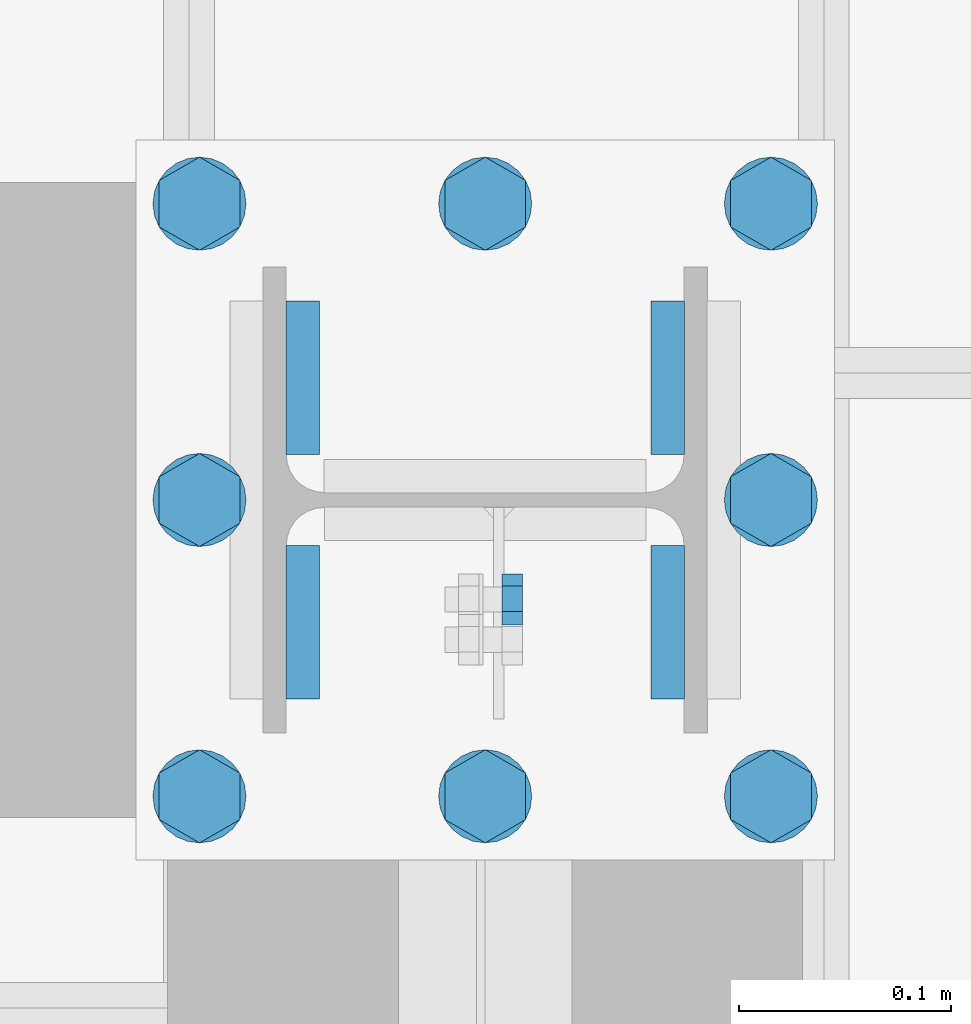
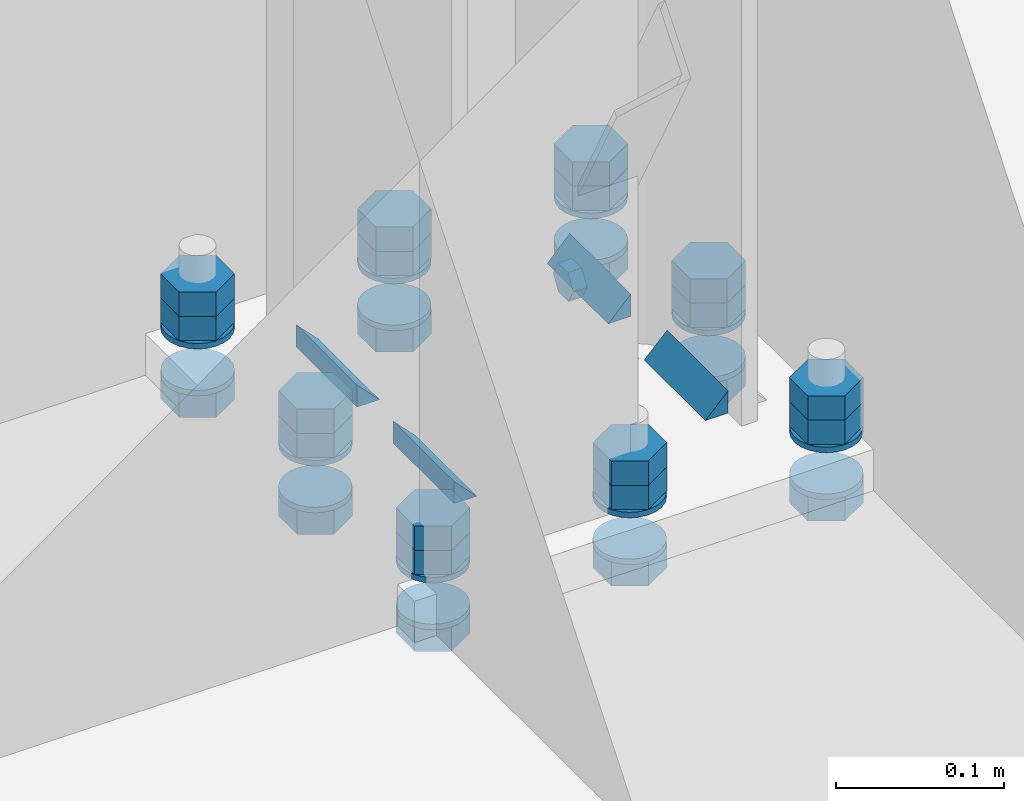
# One storey, part 27 of 29: 41 mechanical fasteners, 8 fasteners.
"""IFC4 building model written with IfcOpenShell, lengths in metres."""

from ifc_helpers import new_model, si_unit, frame, origin_with_axes, place, context, project, spatial, polyline, outline, extrude, type_object, element, save


model = new_model("IFC4")

# Units and contexts
model_context = context("Model", 3, precision=1e-05, world=origin_with_axes())
ifc_project = project(units=[si_unit("LENGTHUNIT", "METRE"), si_unit("AREAUNIT", "SQUARE_METRE"), si_unit("VOLUMEUNIT", "CUBIC_METRE"), si_unit("MASSUNIT", "GRAM", prefix="KILO"), si_unit("TIMEUNIT", "SECOND"), si_unit("PLANEANGLEUNIT", "RADIAN"), si_unit("SOLIDANGLEUNIT", "STERADIAN"), si_unit("THERMODYNAMICTEMPERATUREUNIT", "DEGREE_CELSIUS")], contexts=[model_context])

# Site, building, storey
placement_1 = place(None, origin_with_axes())
site = spatial("IfcSite", under=ifc_project, at=placement_1, Name="Italia", CompositionType="ELEMENT")
building = spatial("IfcBuilding", under=site, at=placement_1, Name="Capannone", CompositionType="ELEMENT")
storey = spatial("IfcBuildingStorey", under=building, at=placement_1, Name="Storey 0", CompositionType="ELEMENT", Elevation=0.0)

# Fasteners
fastener_type_1 = type_object("IfcFastenerType", Name="Collegamenti 0001_0101 0002_0102 0003_0103 0004_0104 0005_0105 0006_0106 0007_0107 0008_0108 0009_0109 0010_0110 0011_0111 0012_0112", PredefinedType="WELD")
placement_2 = place(placement_1, origin_with_axes())
fastener_1_placement = place(placement_2, origin_with_axes())
element("IfcFastener", 1, at=fastener_1_placement, inside=storey, type_object=fastener_type_1, Name="Collegamenti 0001_0101 0002_0102 0003_0103 0004_0104 0005_0105 0006_0106 0007_0107 0008_0108 0009_0109 0010_0110 0011_0111 0012_0112", context=model_context, shape_type="SweptSolid", body=[
    extrude(outline(polyline([(0.0, 0.0), (0.0156889, 0.0161734), (0.0156889, 0.0), (0.0, 0.0)])), frame((13.9216, 15.0215, 0.02995), z_axis=(0.0, 1.0, 0.0), x_axis=(-1.0, 0.0, 0.0)), (0.0, 0.0, 1.0), 0.0726004),
])
fastener_type_2 = type_object("IfcFastenerType", Name="Collegamenti 0001_0101 0002_0102 0003_0103 0004_0104 0005_0105 0006_0106 0007_0107 0008_0108 0009_0109 0010_0110 0011_0111 0012_0112", PredefinedType="WELD")
fastener_2_placement = place(placement_2, origin_with_axes())
element("IfcFastener", 2, at=fastener_2_placement, inside=storey, type_object=fastener_type_2, Name="Collegamenti 0001_0101 0002_0102 0003_0103 0004_0104 0005_0105 0006_0106 0007_0107 0008_0108 0009_0109 0010_0110 0011_0111 0012_0112", context=model_context, shape_type="SweptSolid", body=[
    extrude(outline(polyline([(0.0, 0.0), (0.0156889, 0.0161734), (0.0156889, 0.0), (0.0, 0.0)])), frame((14.0784, 15.0941, 0.02995), z_axis=(0.0, -1.0, 0.0), x_axis=(1.0, 0.0, 0.0)), (0.0, 0.0, 1.0), 0.0726004),
])
fastener_type_3 = type_object("IfcFastenerType", Name="Collegamenti 0001_0101 0002_0102 0003_0103 0004_0104 0005_0105 0006_0106 0007_0107 0008_0108 0009_0109 0010_0110 0011_0111 0012_0112", PredefinedType="WELD")
fastener_3_placement = place(placement_2, origin_with_axes())
element("IfcFastener", 3, at=fastener_3_placement, inside=storey, type_object=fastener_type_3, Name="Collegamenti 0001_0101 0002_0102 0003_0103 0004_0104 0005_0105 0006_0106 0007_0107 0008_0108 0009_0109 0010_0110 0011_0111 0012_0112", context=model_context, shape_type="SweptSolid", body=[
    extrude(outline(polyline([(0.0, 0.0), (0.0156889, 0.0161734), (0.0156889, 0.0), (0.0, 0.0)])), frame((14.0784, 14.9785, 0.02995), z_axis=(0.0, -1.0, 0.0), x_axis=(1.0, 0.0, 0.0)), (0.0, 0.0, 1.0), 0.0726004),
])
fastener_type_4 = type_object("IfcFastenerType", Name="Collegamenti 0001_0101 0002_0102 0003_0103 0004_0104 0005_0105 0006_0106 0007_0107 0008_0108 0009_0109 0010_0110 0011_0111 0012_0112", PredefinedType="WELD")
fastener_4_placement = place(placement_2, origin_with_axes())
element("IfcFastener", 4, at=fastener_4_placement, inside=storey, type_object=fastener_type_4, Name="Collegamenti 0001_0101 0002_0102 0003_0103 0004_0104 0005_0105 0006_0106 0007_0107 0008_0108 0009_0109 0010_0110 0011_0111 0012_0112", context=model_context, shape_type="SweptSolid", body=[
    extrude(outline(polyline([(0.0, 0.0), (0.0156889, 0.0161734), (0.0156889, 0.0), (0.0, 0.0)])), frame((13.9216, 14.9059, 0.02995), z_axis=(0.0, 1.0, 0.0), x_axis=(-1.0, 0.0, 0.0)), (0.0, 0.0, 1.0), 0.0726004),
])
fastener_type_5 = type_object("IfcFastenerType", Name="Collegamenti 0001_0101 0002_0102 0003_0103 0004_0104 0005_0105 0006_0106 0007_0107 0008_0108 0009_0109 0010_0110 0011_0111 0012_0112", PredefinedType="WELD")
fastener_5_placement = place(placement_2, origin_with_axes())
element("IfcFastener", 5, at=fastener_5_placement, inside=storey, type_object=fastener_type_5, Name="Collegamenti 0001_0101 0002_0102 0003_0103 0004_0104 0005_0105 0006_0106 0007_0107 0008_0108 0009_0109 0010_0110 0011_0111 0012_0112", context=model_context, shape_type="SweptSolid", body=[
    extrude(outline(polyline([(0.0, 0.0), (0.0156889, 0.0161734), (0.0156889, 0.0), (0.0, 0.0)])), frame((13.9216, 15.0215, 0.02995), z_axis=(0.0, 1.0, 0.0), x_axis=(-1.0, 0.0, 0.0)), (0.0, 0.0, 1.0), 0.0726004),
])
fastener_type_6 = type_object("IfcFastenerType", Name="Collegamenti 0001_0101 0002_0102 0003_0103 0004_0104 0005_0105 0006_0106 0007_0107 0008_0108 0009_0109 0010_0110 0011_0111 0012_0112", PredefinedType="WELD")
fastener_6_placement = place(placement_2, origin_with_axes())
element("IfcFastener", 6, at=fastener_6_placement, inside=storey, type_object=fastener_type_6, Name="Collegamenti 0001_0101 0002_0102 0003_0103 0004_0104 0005_0105 0006_0106 0007_0107 0008_0108 0009_0109 0010_0110 0011_0111 0012_0112", context=model_context, shape_type="SweptSolid", body=[
    extrude(outline(polyline([(0.0, 0.0), (0.0156889, 0.0161734), (0.0156889, 0.0), (0.0, 0.0)])), frame((14.0784, 15.0941, 0.02995), z_axis=(0.0, -1.0, 0.0), x_axis=(1.0, 0.0, 0.0)), (0.0, 0.0, 1.0), 0.0726004),
])
fastener_type_7 = type_object("IfcFastenerType", Name="Collegamenti 0001_0101 0002_0102 0003_0103 0004_0104 0005_0105 0006_0106 0007_0107 0008_0108 0009_0109 0010_0110 0011_0111 0012_0112", PredefinedType="WELD")
fastener_7_placement = place(placement_2, origin_with_axes())
element("IfcFastener", 7, at=fastener_7_placement, inside=storey, type_object=fastener_type_7, Name="Collegamenti 0001_0101 0002_0102 0003_0103 0004_0104 0005_0105 0006_0106 0007_0107 0008_0108 0009_0109 0010_0110 0011_0111 0012_0112", context=model_context, shape_type="SweptSolid", body=[
    extrude(outline(polyline([(0.0, 0.0), (0.0156889, 0.0161734), (0.0156889, 0.0), (0.0, 0.0)])), frame((14.0784, 14.9785, 0.02995), z_axis=(0.0, -1.0, 0.0), x_axis=(1.0, 0.0, 0.0)), (0.0, 0.0, 1.0), 0.0726004),
])
fastener_type_8 = type_object("IfcFastenerType", Name="Collegamenti 0001_0101 0002_0102 0003_0103 0004_0104 0005_0105 0006_0106 0007_0107 0008_0108 0009_0109 0010_0110 0011_0111 0012_0112", PredefinedType="WELD")
fastener_8_placement = place(placement_2, origin_with_axes())
element("IfcFastener", 8, at=fastener_8_placement, inside=storey, type_object=fastener_type_8, Name="Collegamenti 0001_0101 0002_0102 0003_0103 0004_0104 0005_0105 0006_0106 0007_0107 0008_0108 0009_0109 0010_0110 0011_0111 0012_0112", context=model_context, shape_type="SweptSolid", body=[
    extrude(outline(polyline([(0.0, 0.0), (0.0156889, 0.0161734), (0.0156889, 0.0), (0.0, 0.0)])), frame((13.9216, 14.9059, 0.02995), z_axis=(0.0, 1.0, 0.0), x_axis=(-1.0, 0.0, 0.0)), (0.0, 0.0, 1.0), 0.0726004),
])

# Mechanical fasteners
mechanical_fastener_type_1 = type_object("IfcMechanicalFastenerType", Name="Collegamenti 0001_0101 0002_0102 0003_0103 0004_0104 0005_0105 0006_0106 0007_0107 0008_0108 0009_0109 0010_0110 0011_0111 0012_0112", PredefinedType="BOLT")
mechanical_fastener_1_placement = place(placement_2, origin_with_axes())
element("IfcMechanicalFastener", 9, at=mechanical_fastener_1_placement, inside=storey, type_object=mechanical_fastener_type_1, Name="Collegamenti 0001_0101 0002_0102 0003_0103 0004_0104 0005_0105 0006_0106 0007_0107 0008_0108 0009_0109 0010_0110 0011_0111 0012_0112", NominalDiameter=0.0219998, context=model_context, shape_type="SweptSolid", body=[
    extrude(outline(polyline([(0.0, 0.0), (-0.0220003, 0.0), (-0.033, 0.0190525), (-0.0220003, 0.038105), (0.0, 0.038105), (0.0109997, 0.0190525), (0.0, 0.0)])), frame((14.1541, 14.871, 0.034), z_axis=(0.0, 0.0, 1.0), x_axis=(0.0, 1.0, 0.0)), (0.0, 0.0, 1.0), 0.0176),
])
mechanical_fastener_type_2 = type_object("IfcMechanicalFastenerType", Name="Collegamenti 0001_0101 0002_0102 0003_0103 0004_0104 0005_0105 0006_0106 0007_0107 0008_0108 0009_0109 0010_0110 0011_0111 0012_0112", PredefinedType="BOLT")
mechanical_fastener_2_placement = place(placement_2, origin_with_axes())
element("IfcMechanicalFastener", 10, at=mechanical_fastener_2_placement, inside=storey, type_object=mechanical_fastener_type_2, Name="Collegamenti 0001_0101 0002_0102 0003_0103 0004_0104 0005_0105 0006_0106 0007_0107 0008_0108 0009_0109 0010_0110 0011_0111 0012_0112", NominalDiameter=0.0219998, context=model_context, shape_type="SweptSolid", body=[
    extrude(outline(polyline([(0.0, 0.0), (-0.0220003, 0.0), (-0.033, 0.0190525), (-0.0220003, 0.038105), (0.0, 0.038105), (0.0109997, 0.0190525), (0.0, 0.0)])), frame((14.1541, 14.871, 0.0516), z_axis=(0.0, 0.0, 1.0), x_axis=(0.0, 1.0, 0.0)), (0.0, 0.0, 1.0), 0.0176),
])
mechanical_fastener_type_3 = type_object("IfcMechanicalFastenerType", Name="Collegamenti 0001_0101 0002_0102 0003_0103 0004_0104 0005_0105 0006_0106 0007_0107 0008_0108 0009_0109 0010_0110 0011_0111 0012_0112", PredefinedType="BOLT")
mechanical_fastener_3_placement = place(placement_2, origin_with_axes())
element("IfcMechanicalFastener", 11, at=mechanical_fastener_3_placement, inside=storey, type_object=mechanical_fastener_type_3, Name="Collegamenti 0001_0101 0002_0102 0003_0103 0004_0104 0005_0105 0006_0106 0007_0107 0008_0108 0009_0109 0010_0110 0011_0111 0012_0112", NominalDiameter=0.0219998, context=model_context, shape_type="SweptSolid", body=[
    extrude(outline(polyline([(0.0, 0.0), (-0.0220003, 0.0), (-0.033, 0.0190525), (-0.0220003, 0.038105), (0.0, 0.038105), (0.0109997, 0.0190525), (0.0, 0.0)])), frame((14.1541, 14.871, -0.0216), z_axis=(0.0, 0.0, 1.0), x_axis=(0.0, 1.0, 0.0)), (0.0, 0.0, 1.0), 0.0176),
])
mechanical_fastener_type_4 = type_object("IfcMechanicalFastenerType", Name="Collegamenti 0001_0101 0002_0102 0003_0103 0004_0104 0005_0105 0006_0106 0007_0107 0008_0108 0009_0109 0010_0110 0011_0111 0012_0112", PredefinedType="BOLT")
mechanical_fastener_4_placement = place(placement_2, origin_with_axes())
element("IfcMechanicalFastener", 12, at=mechanical_fastener_4_placement, inside=storey, type_object=mechanical_fastener_type_4, Name="Collegamenti 0001_0101 0002_0102 0003_0103 0004_0104 0005_0105 0006_0106 0007_0107 0008_0108 0009_0109 0010_0110 0011_0111 0012_0112", NominalDiameter=0.044, context=model_context, shape_type="SweptSolid", body=[
    extrude(outline(polyline([(0.0, 0.0), (-0.000749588, -0.00569439), (-0.00294781, -0.0109997), (-0.00644398, -0.0155563), (-0.0110006, -0.0190525), (-0.0163059, -0.0212507), (-0.0220003, -0.0220003), (-0.0276947, -0.0212507), (-0.033, -0.0190525), (-0.0375566, -0.0155563), (-0.0410528, -0.0109997), (-0.043251, -0.00569439), (-0.0440006, 0.0), (-0.043251, 0.00569439), (-0.0410528, 0.0109997), (-0.0375566, 0.0155563), (-0.033, 0.0190525), (-0.0276947, 0.0212507), (-0.0220003, 0.0220003), (-0.0163059, 0.0212507), (-0.0110006, 0.0190525), (-0.00644398, 0.0155563), (-0.00294781, 0.0109997), (-0.000749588, 0.00569439), (0.0, 0.0)])), frame((14.135, 14.882, 0.03), z_axis=(0.0, 0.0, 1.0), x_axis=(0.0, 1.0, 0.0)), (0.0, 0.0, 1.0), 0.004),
])
mechanical_fastener_type_5 = type_object("IfcMechanicalFastenerType", Name="Collegamenti 0001_0101 0002_0102 0003_0103 0004_0104 0005_0105 0006_0106 0007_0107 0008_0108 0009_0109 0010_0110 0011_0111 0012_0112", PredefinedType="BOLT")
mechanical_fastener_5_placement = place(placement_2, origin_with_axes())
element("IfcMechanicalFastener", 13, at=mechanical_fastener_5_placement, inside=storey, type_object=mechanical_fastener_type_5, Name="Collegamenti 0001_0101 0002_0102 0003_0103 0004_0104 0005_0105 0006_0106 0007_0107 0008_0108 0009_0109 0010_0110 0011_0111 0012_0112", NominalDiameter=0.044, context=model_context, shape_type="SweptSolid", body=[
    extrude(outline(polyline([(0.0, 0.0), (-0.000749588, -0.00569439), (-0.00294781, -0.0109997), (-0.00644398, -0.0155563), (-0.0110006, -0.0190525), (-0.0163059, -0.0212507), (-0.0220003, -0.0220003), (-0.0276947, -0.0212507), (-0.033, -0.0190525), (-0.0375566, -0.0155563), (-0.0410528, -0.0109997), (-0.043251, -0.00569439), (-0.0440006, 0.0), (-0.043251, 0.00569439), (-0.0410528, 0.0109997), (-0.0375566, 0.0155563), (-0.033, 0.0190525), (-0.0276947, 0.0212507), (-0.0220003, 0.0220003), (-0.0163059, 0.0212507), (-0.0110006, 0.0190525), (-0.00644398, 0.0155563), (-0.00294781, 0.0109997), (-0.000749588, 0.00569439), (0.0, 0.0)])), frame((14.135, 14.882, -0.004), z_axis=(0.0, 0.0, 1.0), x_axis=(0.0, 1.0, 0.0)), (0.0, 0.0, 1.0), 0.004),
])
mechanical_fastener_type_6 = type_object("IfcMechanicalFastenerType", Name="Collegamenti 0001_0101 0002_0102 0003_0103 0004_0104 0005_0105 0006_0106 0007_0107 0008_0108 0009_0109 0010_0110 0011_0111 0012_0112", PredefinedType="BOLT")
mechanical_fastener_6_placement = place(placement_2, origin_with_axes())
element("IfcMechanicalFastener", 14, at=mechanical_fastener_6_placement, inside=storey, type_object=mechanical_fastener_type_6, Name="Collegamenti 0001_0101 0002_0102 0003_0103 0004_0104 0005_0105 0006_0106 0007_0107 0008_0108 0009_0109 0010_0110 0011_0111 0012_0112", NominalDiameter=0.0219994, context=model_context, shape_type="SweptSolid", body=[
    extrude(outline(polyline([(0.0, 0.0), (-0.0219994, 0.0), (-0.033, 0.0190525), (-0.0219994, 0.038105), (0.0, 0.038105), (0.0110006, 0.0190525), (0.0, 0.0)])), frame((14.1541, 15.011, 0.034), z_axis=(0.0, 0.0, 1.0), x_axis=(0.0, 1.0, 0.0)), (0.0, 0.0, 1.0), 0.0176),
])
mechanical_fastener_type_7 = type_object("IfcMechanicalFastenerType", Name="Collegamenti 0001_0101 0002_0102 0003_0103 0004_0104 0005_0105 0006_0106 0007_0107 0008_0108 0009_0109 0010_0110 0011_0111 0012_0112", PredefinedType="BOLT")
mechanical_fastener_7_placement = place(placement_2, origin_with_axes())
element("IfcMechanicalFastener", 15, at=mechanical_fastener_7_placement, inside=storey, type_object=mechanical_fastener_type_7, Name="Collegamenti 0001_0101 0002_0102 0003_0103 0004_0104 0005_0105 0006_0106 0007_0107 0008_0108 0009_0109 0010_0110 0011_0111 0012_0112", NominalDiameter=0.0219994, context=model_context, shape_type="SweptSolid", body=[
    extrude(outline(polyline([(0.0, 0.0), (-0.0219994, 0.0), (-0.033, 0.0190525), (-0.0219994, 0.038105), (0.0, 0.038105), (0.0110006, 0.0190525), (0.0, 0.0)])), frame((14.1541, 15.011, 0.0516), z_axis=(0.0, 0.0, 1.0), x_axis=(0.0, 1.0, 0.0)), (0.0, 0.0, 1.0), 0.0176),
])
mechanical_fastener_type_8 = type_object("IfcMechanicalFastenerType", Name="Collegamenti 0001_0101 0002_0102 0003_0103 0004_0104 0005_0105 0006_0106 0007_0107 0008_0108 0009_0109 0010_0110 0011_0111 0012_0112", PredefinedType="BOLT")
mechanical_fastener_8_placement = place(placement_2, origin_with_axes())
element("IfcMechanicalFastener", 16, at=mechanical_fastener_8_placement, inside=storey, type_object=mechanical_fastener_type_8, Name="Collegamenti 0001_0101 0002_0102 0003_0103 0004_0104 0005_0105 0006_0106 0007_0107 0008_0108 0009_0109 0010_0110 0011_0111 0012_0112", NominalDiameter=0.0219994, context=model_context, shape_type="SweptSolid", body=[
    extrude(outline(polyline([(0.0, 0.0), (-0.0219994, 0.0), (-0.033, 0.0190525), (-0.0219994, 0.038105), (0.0, 0.038105), (0.0110006, 0.0190525), (0.0, 0.0)])), frame((14.1541, 15.011, -0.0216), z_axis=(0.0, 0.0, 1.0), x_axis=(0.0, 1.0, 0.0)), (0.0, 0.0, 1.0), 0.0176),
])
mechanical_fastener_type_9 = type_object("IfcMechanicalFastenerType", Name="Collegamenti 0001_0101 0002_0102 0003_0103 0004_0104 0005_0105 0006_0106 0007_0107 0008_0108 0009_0109 0010_0110 0011_0111 0012_0112", PredefinedType="BOLT")
mechanical_fastener_9_placement = place(placement_2, origin_with_axes())
element("IfcMechanicalFastener", 17, at=mechanical_fastener_9_placement, inside=storey, type_object=mechanical_fastener_type_9, Name="Collegamenti 0001_0101 0002_0102 0003_0103 0004_0104 0005_0105 0006_0106 0007_0107 0008_0108 0009_0109 0010_0110 0011_0111 0012_0112", NominalDiameter=0.044, context=model_context, shape_type="SweptSolid", body=[
    extrude(outline(polyline([(0.0, 0.0), (-0.000749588, -0.00569439), (-0.00294781, -0.0109997), (-0.00644398, -0.0155563), (-0.0110006, -0.0190525), (-0.0163059, -0.0212507), (-0.0220003, -0.0220003), (-0.0276947, -0.0212507), (-0.033, -0.0190525), (-0.0375566, -0.0155563), (-0.0410528, -0.0109997), (-0.043251, -0.00569439), (-0.0440006, 0.0), (-0.043251, 0.00569439), (-0.0410528, 0.0109997), (-0.0375566, 0.0155563), (-0.033, 0.0190525), (-0.0276947, 0.0212507), (-0.0220003, 0.0220003), (-0.0163059, 0.0212507), (-0.0110006, 0.0190525), (-0.00644398, 0.0155563), (-0.00294781, 0.0109997), (-0.000749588, 0.00569439), (0.0, 0.0)])), frame((14.135, 15.022, 0.03), z_axis=(0.0, 0.0, 1.0), x_axis=(0.0, 1.0, 0.0)), (0.0, 0.0, 1.0), 0.004),
])
mechanical_fastener_type_10 = type_object("IfcMechanicalFastenerType", Name="Collegamenti 0001_0101 0002_0102 0003_0103 0004_0104 0005_0105 0006_0106 0007_0107 0008_0108 0009_0109 0010_0110 0011_0111 0012_0112", PredefinedType="BOLT")
mechanical_fastener_10_placement = place(placement_2, origin_with_axes())
element("IfcMechanicalFastener", 18, at=mechanical_fastener_10_placement, inside=storey, type_object=mechanical_fastener_type_10, Name="Collegamenti 0001_0101 0002_0102 0003_0103 0004_0104 0005_0105 0006_0106 0007_0107 0008_0108 0009_0109 0010_0110 0011_0111 0012_0112", NominalDiameter=0.044, context=model_context, shape_type="SweptSolid", body=[
    extrude(outline(polyline([(0.0, 0.0), (-0.000749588, -0.00569439), (-0.00294781, -0.0109997), (-0.00644398, -0.0155563), (-0.0110006, -0.0190525), (-0.0163059, -0.0212507), (-0.0220003, -0.0220003), (-0.0276947, -0.0212507), (-0.033, -0.0190525), (-0.0375566, -0.0155563), (-0.0410528, -0.0109997), (-0.043251, -0.00569439), (-0.0440006, 0.0), (-0.043251, 0.00569439), (-0.0410528, 0.0109997), (-0.0375566, 0.0155563), (-0.033, 0.0190525), (-0.0276947, 0.0212507), (-0.0220003, 0.0220003), (-0.0163059, 0.0212507), (-0.0110006, 0.0190525), (-0.00644398, 0.0155563), (-0.00294781, 0.0109997), (-0.000749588, 0.00569439), (0.0, 0.0)])), frame((14.135, 15.022, -0.004), z_axis=(0.0, 0.0, 1.0), x_axis=(0.0, 1.0, 0.0)), (0.0, 0.0, 1.0), 0.004),
])
mechanical_fastener_type_11 = type_object("IfcMechanicalFastenerType", Name="Collegamenti 0001_0101 0002_0102 0003_0103 0004_0104 0005_0105 0006_0106 0007_0107 0008_0108 0009_0109 0010_0110 0011_0111 0012_0112", PredefinedType="BOLT")
mechanical_fastener_11_placement = place(placement_2, origin_with_axes())
element("IfcMechanicalFastener", 19, at=mechanical_fastener_11_placement, inside=storey, type_object=mechanical_fastener_type_11, Name="Collegamenti 0001_0101 0002_0102 0003_0103 0004_0104 0005_0105 0006_0106 0007_0107 0008_0108 0009_0109 0010_0110 0011_0111 0012_0112", NominalDiameter=0.0219998, context=model_context, shape_type="SweptSolid", body=[
    extrude(outline(polyline([(0.0, 0.0), (-0.0220003, 0.0), (-0.033, 0.0190525), (-0.0220003, 0.038105), (0.0, 0.038105), (0.0109997, 0.0190525), (0.0, 0.0)])), frame((14.1541, 15.151, 0.034), z_axis=(0.0, 0.0, 1.0), x_axis=(0.0, 1.0, 0.0)), (0.0, 0.0, 1.0), 0.0176),
])
mechanical_fastener_type_12 = type_object("IfcMechanicalFastenerType", Name="Collegamenti 0001_0101 0002_0102 0003_0103 0004_0104 0005_0105 0006_0106 0007_0107 0008_0108 0009_0109 0010_0110 0011_0111 0012_0112", PredefinedType="BOLT")
mechanical_fastener_12_placement = place(placement_2, origin_with_axes())
element("IfcMechanicalFastener", 20, at=mechanical_fastener_12_placement, inside=storey, type_object=mechanical_fastener_type_12, Name="Collegamenti 0001_0101 0002_0102 0003_0103 0004_0104 0005_0105 0006_0106 0007_0107 0008_0108 0009_0109 0010_0110 0011_0111 0012_0112", NominalDiameter=0.0219998, context=model_context, shape_type="SweptSolid", body=[
    extrude(outline(polyline([(0.0, 0.0), (-0.0220003, 0.0), (-0.033, 0.0190525), (-0.0220003, 0.038105), (0.0, 0.038105), (0.0109997, 0.0190525), (0.0, 0.0)])), frame((14.1541, 15.151, 0.0516), z_axis=(0.0, 0.0, 1.0), x_axis=(0.0, 1.0, 0.0)), (0.0, 0.0, 1.0), 0.0176),
])
mechanical_fastener_type_13 = type_object("IfcMechanicalFastenerType", Name="Collegamenti 0001_0101 0002_0102 0003_0103 0004_0104 0005_0105 0006_0106 0007_0107 0008_0108 0009_0109 0010_0110 0011_0111 0012_0112", PredefinedType="BOLT")
mechanical_fastener_13_placement = place(placement_2, origin_with_axes())
element("IfcMechanicalFastener", 21, at=mechanical_fastener_13_placement, inside=storey, type_object=mechanical_fastener_type_13, Name="Collegamenti 0001_0101 0002_0102 0003_0103 0004_0104 0005_0105 0006_0106 0007_0107 0008_0108 0009_0109 0010_0110 0011_0111 0012_0112", NominalDiameter=0.0219998, context=model_context, shape_type="SweptSolid", body=[
    extrude(outline(polyline([(0.0, 0.0), (-0.0220003, 0.0), (-0.033, 0.0190525), (-0.0220003, 0.038105), (0.0, 0.038105), (0.0109997, 0.0190525), (0.0, 0.0)])), frame((14.1541, 15.151, -0.0216), z_axis=(0.0, 0.0, 1.0), x_axis=(0.0, 1.0, 0.0)), (0.0, 0.0, 1.0), 0.0176),
])
mechanical_fastener_type_14 = type_object("IfcMechanicalFastenerType", Name="Collegamenti 0001_0101 0002_0102 0003_0103 0004_0104 0005_0105 0006_0106 0007_0107 0008_0108 0009_0109 0010_0110 0011_0111 0012_0112", PredefinedType="BOLT")
mechanical_fastener_14_placement = place(placement_2, origin_with_axes())
element("IfcMechanicalFastener", 22, at=mechanical_fastener_14_placement, inside=storey, type_object=mechanical_fastener_type_14, Name="Collegamenti 0001_0101 0002_0102 0003_0103 0004_0104 0005_0105 0006_0106 0007_0107 0008_0108 0009_0109 0010_0110 0011_0111 0012_0112", NominalDiameter=0.044, context=model_context, shape_type="SweptSolid", body=[
    extrude(outline(polyline([(0.0, 0.0), (-0.000749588, -0.00569439), (-0.00294781, -0.0109997), (-0.00644398, -0.0155563), (-0.0110006, -0.0190525), (-0.0163059, -0.0212507), (-0.0220003, -0.0220003), (-0.0276947, -0.0212507), (-0.033, -0.0190525), (-0.0375566, -0.0155563), (-0.0410528, -0.0109997), (-0.043251, -0.00569439), (-0.0440006, 0.0), (-0.043251, 0.00569439), (-0.0410528, 0.0109997), (-0.0375566, 0.0155563), (-0.033, 0.0190525), (-0.0276947, 0.0212507), (-0.0220003, 0.0220003), (-0.0163059, 0.0212507), (-0.0110006, 0.0190525), (-0.00644398, 0.0155563), (-0.00294781, 0.0109997), (-0.000749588, 0.00569439), (0.0, 0.0)])), frame((14.135, 15.162, 0.03), z_axis=(0.0, 0.0, 1.0), x_axis=(0.0, 1.0, 0.0)), (0.0, 0.0, 1.0), 0.004),
])
mechanical_fastener_type_15 = type_object("IfcMechanicalFastenerType", Name="Collegamenti 0001_0101 0002_0102 0003_0103 0004_0104 0005_0105 0006_0106 0007_0107 0008_0108 0009_0109 0010_0110 0011_0111 0012_0112", PredefinedType="BOLT")
mechanical_fastener_15_placement = place(placement_2, origin_with_axes())
element("IfcMechanicalFastener", 23, at=mechanical_fastener_15_placement, inside=storey, type_object=mechanical_fastener_type_15, Name="Collegamenti 0001_0101 0002_0102 0003_0103 0004_0104 0005_0105 0006_0106 0007_0107 0008_0108 0009_0109 0010_0110 0011_0111 0012_0112", NominalDiameter=0.044, context=model_context, shape_type="SweptSolid", body=[
    extrude(outline(polyline([(0.0, 0.0), (-0.000749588, -0.00569439), (-0.00294781, -0.0109997), (-0.00644398, -0.0155563), (-0.0110006, -0.0190525), (-0.0163059, -0.0212507), (-0.0220003, -0.0220003), (-0.0276947, -0.0212507), (-0.033, -0.0190525), (-0.0375566, -0.0155563), (-0.0410528, -0.0109997), (-0.043251, -0.00569439), (-0.0440006, 0.0), (-0.043251, 0.00569439), (-0.0410528, 0.0109997), (-0.0375566, 0.0155563), (-0.033, 0.0190525), (-0.0276947, 0.0212507), (-0.0220003, 0.0220003), (-0.0163059, 0.0212507), (-0.0110006, 0.0190525), (-0.00644398, 0.0155563), (-0.00294781, 0.0109997), (-0.000749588, 0.00569439), (0.0, 0.0)])), frame((14.135, 15.162, -0.004), z_axis=(0.0, 0.0, 1.0), x_axis=(0.0, 1.0, 0.0)), (0.0, 0.0, 1.0), 0.004),
])
mechanical_fastener_type_16 = type_object("IfcMechanicalFastenerType", Name="Collegamenti 0001_0101 0002_0102 0003_0103 0004_0104 0005_0105 0006_0106 0007_0107 0008_0108 0009_0109 0010_0110 0011_0111 0012_0112", PredefinedType="BOLT")
mechanical_fastener_16_placement = place(placement_2, origin_with_axes())
element("IfcMechanicalFastener", 24, at=mechanical_fastener_16_placement, inside=storey, type_object=mechanical_fastener_type_16, Name="Collegamenti 0001_0101 0002_0102 0003_0103 0004_0104 0005_0105 0006_0106 0007_0107 0008_0108 0009_0109 0010_0110 0011_0111 0012_0112", NominalDiameter=0.0219998, context=model_context, shape_type="SweptSolid", body=[
    extrude(outline(polyline([(0.0, 0.0), (-0.0220003, 0.0), (-0.033, 0.0190525), (-0.0220003, 0.038105), (0.0, 0.038105), (0.0109997, 0.0190525), (0.0, 0.0)])), frame((14.0191, 14.871, 0.034), z_axis=(0.0, 0.0, 1.0), x_axis=(0.0, 1.0, 0.0)), (0.0, 0.0, 1.0), 0.0176),
])
mechanical_fastener_type_17 = type_object("IfcMechanicalFastenerType", Name="Collegamenti 0001_0101 0002_0102 0003_0103 0004_0104 0005_0105 0006_0106 0007_0107 0008_0108 0009_0109 0010_0110 0011_0111 0012_0112", PredefinedType="BOLT")
mechanical_fastener_17_placement = place(placement_2, origin_with_axes())
element("IfcMechanicalFastener", 25, at=mechanical_fastener_17_placement, inside=storey, type_object=mechanical_fastener_type_17, Name="Collegamenti 0001_0101 0002_0102 0003_0103 0004_0104 0005_0105 0006_0106 0007_0107 0008_0108 0009_0109 0010_0110 0011_0111 0012_0112", NominalDiameter=0.0219998, context=model_context, shape_type="SweptSolid", body=[
    extrude(outline(polyline([(0.0, 0.0), (-0.0220003, 0.0), (-0.033, 0.0190525), (-0.0220003, 0.038105), (0.0, 0.038105), (0.0109997, 0.0190525), (0.0, 0.0)])), frame((14.0191, 14.871, 0.0516), z_axis=(0.0, 0.0, 1.0), x_axis=(0.0, 1.0, 0.0)), (0.0, 0.0, 1.0), 0.0176),
])
mechanical_fastener_type_18 = type_object("IfcMechanicalFastenerType", Name="Collegamenti 0001_0101 0002_0102 0003_0103 0004_0104 0005_0105 0006_0106 0007_0107 0008_0108 0009_0109 0010_0110 0011_0111 0012_0112", PredefinedType="BOLT")
mechanical_fastener_18_placement = place(placement_2, origin_with_axes())
element("IfcMechanicalFastener", 26, at=mechanical_fastener_18_placement, inside=storey, type_object=mechanical_fastener_type_18, Name="Collegamenti 0001_0101 0002_0102 0003_0103 0004_0104 0005_0105 0006_0106 0007_0107 0008_0108 0009_0109 0010_0110 0011_0111 0012_0112", NominalDiameter=0.0219998, context=model_context, shape_type="SweptSolid", body=[
    extrude(outline(polyline([(0.0, 0.0), (-0.0220003, 0.0), (-0.033, 0.0190525), (-0.0220003, 0.038105), (0.0, 0.038105), (0.0109997, 0.0190525), (0.0, 0.0)])), frame((14.0191, 14.871, -0.0216), z_axis=(0.0, 0.0, 1.0), x_axis=(0.0, 1.0, 0.0)), (0.0, 0.0, 1.0), 0.0176),
])
mechanical_fastener_type_19 = type_object("IfcMechanicalFastenerType", Name="Collegamenti 0001_0101 0002_0102 0003_0103 0004_0104 0005_0105 0006_0106 0007_0107 0008_0108 0009_0109 0010_0110 0011_0111 0012_0112", PredefinedType="BOLT")
mechanical_fastener_19_placement = place(placement_2, origin_with_axes())
element("IfcMechanicalFastener", 27, at=mechanical_fastener_19_placement, inside=storey, type_object=mechanical_fastener_type_19, Name="Collegamenti 0001_0101 0002_0102 0003_0103 0004_0104 0005_0105 0006_0106 0007_0107 0008_0108 0009_0109 0010_0110 0011_0111 0012_0112", NominalDiameter=0.044, context=model_context, shape_type="SweptSolid", body=[
    extrude(outline(polyline([(0.0, 0.0), (-0.000749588, -0.00569439), (-0.00294781, -0.0109997), (-0.00644398, -0.0155563), (-0.0110006, -0.0190525), (-0.0163059, -0.0212507), (-0.0220003, -0.0220003), (-0.0276947, -0.0212507), (-0.033, -0.0190525), (-0.0375566, -0.0155563), (-0.0410528, -0.0109997), (-0.043251, -0.00569439), (-0.0440006, 0.0), (-0.043251, 0.00569439), (-0.0410528, 0.0109997), (-0.0375566, 0.0155563), (-0.033, 0.0190525), (-0.0276947, 0.0212507), (-0.0220003, 0.0220003), (-0.0163059, 0.0212507), (-0.0110006, 0.0190525), (-0.00644398, 0.0155563), (-0.00294781, 0.0109997), (-0.000749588, 0.00569439), (0.0, 0.0)])), frame((14.0, 14.882, 0.03), z_axis=(0.0, 0.0, 1.0), x_axis=(0.0, 1.0, 0.0)), (0.0, 0.0, 1.0), 0.004),
])
mechanical_fastener_type_20 = type_object("IfcMechanicalFastenerType", Name="Collegamenti 0001_0101 0002_0102 0003_0103 0004_0104 0005_0105 0006_0106 0007_0107 0008_0108 0009_0109 0010_0110 0011_0111 0012_0112", PredefinedType="BOLT")
mechanical_fastener_20_placement = place(placement_2, origin_with_axes())
element("IfcMechanicalFastener", 28, at=mechanical_fastener_20_placement, inside=storey, type_object=mechanical_fastener_type_20, Name="Collegamenti 0001_0101 0002_0102 0003_0103 0004_0104 0005_0105 0006_0106 0007_0107 0008_0108 0009_0109 0010_0110 0011_0111 0012_0112", NominalDiameter=0.044, context=model_context, shape_type="SweptSolid", body=[
    extrude(outline(polyline([(0.0, 0.0), (-0.000749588, -0.00569439), (-0.00294781, -0.0109997), (-0.00644398, -0.0155563), (-0.0110006, -0.0190525), (-0.0163059, -0.0212507), (-0.0220003, -0.0220003), (-0.0276947, -0.0212507), (-0.033, -0.0190525), (-0.0375566, -0.0155563), (-0.0410528, -0.0109997), (-0.043251, -0.00569439), (-0.0440006, 0.0), (-0.043251, 0.00569439), (-0.0410528, 0.0109997), (-0.0375566, 0.0155563), (-0.033, 0.0190525), (-0.0276947, 0.0212507), (-0.0220003, 0.0220003), (-0.0163059, 0.0212507), (-0.0110006, 0.0190525), (-0.00644398, 0.0155563), (-0.00294781, 0.0109997), (-0.000749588, 0.00569439), (0.0, 0.0)])), frame((14.0, 14.882, -0.004), z_axis=(0.0, 0.0, 1.0), x_axis=(0.0, 1.0, 0.0)), (0.0, 0.0, 1.0), 0.004),
])
mechanical_fastener_type_21 = type_object("IfcMechanicalFastenerType", Name="Collegamenti 0001_0101 0002_0102 0003_0103 0004_0104 0005_0105 0006_0106 0007_0107 0008_0108 0009_0109 0010_0110 0011_0111 0012_0112", PredefinedType="BOLT")
mechanical_fastener_21_placement = place(placement_2, origin_with_axes())
element("IfcMechanicalFastener", 29, at=mechanical_fastener_21_placement, inside=storey, type_object=mechanical_fastener_type_21, Name="Collegamenti 0001_0101 0002_0102 0003_0103 0004_0104 0005_0105 0006_0106 0007_0107 0008_0108 0009_0109 0010_0110 0011_0111 0012_0112", NominalDiameter=0.0219998, context=model_context, shape_type="SweptSolid", body=[
    extrude(outline(polyline([(0.0, 0.0), (-0.0220003, 0.0), (-0.033, 0.0190525), (-0.0220003, 0.038105), (0.0, 0.038105), (0.0109997, 0.0190525), (0.0, 0.0)])), frame((14.0191, 15.151, 0.034), z_axis=(0.0, 0.0, 1.0), x_axis=(0.0, 1.0, 0.0)), (0.0, 0.0, 1.0), 0.0176),
])
mechanical_fastener_type_22 = type_object("IfcMechanicalFastenerType", Name="Collegamenti 0001_0101 0002_0102 0003_0103 0004_0104 0005_0105 0006_0106 0007_0107 0008_0108 0009_0109 0010_0110 0011_0111 0012_0112", PredefinedType="BOLT")
mechanical_fastener_22_placement = place(placement_2, origin_with_axes())
element("IfcMechanicalFastener", 30, at=mechanical_fastener_22_placement, inside=storey, type_object=mechanical_fastener_type_22, Name="Collegamenti 0001_0101 0002_0102 0003_0103 0004_0104 0005_0105 0006_0106 0007_0107 0008_0108 0009_0109 0010_0110 0011_0111 0012_0112", NominalDiameter=0.0219998, context=model_context, shape_type="SweptSolid", body=[
    extrude(outline(polyline([(0.0, 0.0), (-0.0220003, 0.0), (-0.033, 0.0190525), (-0.0220003, 0.038105), (0.0, 0.038105), (0.0109997, 0.0190525), (0.0, 0.0)])), frame((14.0191, 15.151, 0.0516), z_axis=(0.0, 0.0, 1.0), x_axis=(0.0, 1.0, 0.0)), (0.0, 0.0, 1.0), 0.0176),
])
mechanical_fastener_type_23 = type_object("IfcMechanicalFastenerType", Name="Collegamenti 0001_0101 0002_0102 0003_0103 0004_0104 0005_0105 0006_0106 0007_0107 0008_0108 0009_0109 0010_0110 0011_0111 0012_0112", PredefinedType="BOLT")
mechanical_fastener_23_placement = place(placement_2, origin_with_axes())
element("IfcMechanicalFastener", 31, at=mechanical_fastener_23_placement, inside=storey, type_object=mechanical_fastener_type_23, Name="Collegamenti 0001_0101 0002_0102 0003_0103 0004_0104 0005_0105 0006_0106 0007_0107 0008_0108 0009_0109 0010_0110 0011_0111 0012_0112", NominalDiameter=0.0219998, context=model_context, shape_type="SweptSolid", body=[
    extrude(outline(polyline([(0.0, 0.0), (-0.0220003, 0.0), (-0.033, 0.0190525), (-0.0220003, 0.038105), (0.0, 0.038105), (0.0109997, 0.0190525), (0.0, 0.0)])), frame((14.0191, 15.151, -0.0216), z_axis=(0.0, 0.0, 1.0), x_axis=(0.0, 1.0, 0.0)), (0.0, 0.0, 1.0), 0.0176),
])
mechanical_fastener_type_24 = type_object("IfcMechanicalFastenerType", Name="Collegamenti 0001_0101 0002_0102 0003_0103 0004_0104 0005_0105 0006_0106 0007_0107 0008_0108 0009_0109 0010_0110 0011_0111 0012_0112", PredefinedType="BOLT")
mechanical_fastener_24_placement = place(placement_2, origin_with_axes())
element("IfcMechanicalFastener", 32, at=mechanical_fastener_24_placement, inside=storey, type_object=mechanical_fastener_type_24, Name="Collegamenti 0001_0101 0002_0102 0003_0103 0004_0104 0005_0105 0006_0106 0007_0107 0008_0108 0009_0109 0010_0110 0011_0111 0012_0112", NominalDiameter=0.044, context=model_context, shape_type="SweptSolid", body=[
    extrude(outline(polyline([(0.0, 0.0), (-0.000749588, -0.00569439), (-0.00294781, -0.0109997), (-0.00644398, -0.0155563), (-0.0110006, -0.0190525), (-0.0163059, -0.0212507), (-0.0220003, -0.0220003), (-0.0276947, -0.0212507), (-0.033, -0.0190525), (-0.0375566, -0.0155563), (-0.0410528, -0.0109997), (-0.043251, -0.00569439), (-0.0440006, 0.0), (-0.043251, 0.00569439), (-0.0410528, 0.0109997), (-0.0375566, 0.0155563), (-0.033, 0.0190525), (-0.0276947, 0.0212507), (-0.0220003, 0.0220003), (-0.0163059, 0.0212507), (-0.0110006, 0.0190525), (-0.00644398, 0.0155563), (-0.00294781, 0.0109997), (-0.000749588, 0.00569439), (0.0, 0.0)])), frame((14.0, 15.162, 0.03), z_axis=(0.0, 0.0, 1.0), x_axis=(0.0, 1.0, 0.0)), (0.0, 0.0, 1.0), 0.004),
])
mechanical_fastener_type_25 = type_object("IfcMechanicalFastenerType", Name="Collegamenti 0001_0101 0002_0102 0003_0103 0004_0104 0005_0105 0006_0106 0007_0107 0008_0108 0009_0109 0010_0110 0011_0111 0012_0112", PredefinedType="BOLT")
mechanical_fastener_25_placement = place(placement_2, origin_with_axes())
element("IfcMechanicalFastener", 33, at=mechanical_fastener_25_placement, inside=storey, type_object=mechanical_fastener_type_25, Name="Collegamenti 0001_0101 0002_0102 0003_0103 0004_0104 0005_0105 0006_0106 0007_0107 0008_0108 0009_0109 0010_0110 0011_0111 0012_0112", NominalDiameter=0.044, context=model_context, shape_type="SweptSolid", body=[
    extrude(outline(polyline([(0.0, 0.0), (-0.000749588, -0.00569439), (-0.00294781, -0.0109997), (-0.00644398, -0.0155563), (-0.0110006, -0.0190525), (-0.0163059, -0.0212507), (-0.0220003, -0.0220003), (-0.0276947, -0.0212507), (-0.033, -0.0190525), (-0.0375566, -0.0155563), (-0.0410528, -0.0109997), (-0.043251, -0.00569439), (-0.0440006, 0.0), (-0.043251, 0.00569439), (-0.0410528, 0.0109997), (-0.0375566, 0.0155563), (-0.033, 0.0190525), (-0.0276947, 0.0212507), (-0.0220003, 0.0220003), (-0.0163059, 0.0212507), (-0.0110006, 0.0190525), (-0.00644398, 0.0155563), (-0.00294781, 0.0109997), (-0.000749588, 0.00569439), (0.0, 0.0)])), frame((14.0, 15.162, -0.004), z_axis=(0.0, 0.0, 1.0), x_axis=(0.0, 1.0, 0.0)), (0.0, 0.0, 1.0), 0.004),
])
mechanical_fastener_type_26 = type_object("IfcMechanicalFastenerType", Name="Collegamenti 0001_0101 0002_0102 0003_0103 0004_0104 0005_0105 0006_0106 0007_0107 0008_0108 0009_0109 0010_0110 0011_0111 0012_0112", PredefinedType="BOLT")
mechanical_fastener_26_placement = place(placement_2, origin_with_axes())
element("IfcMechanicalFastener", 34, at=mechanical_fastener_26_placement, inside=storey, type_object=mechanical_fastener_type_26, Name="Collegamenti 0001_0101 0002_0102 0003_0103 0004_0104 0005_0105 0006_0106 0007_0107 0008_0108 0009_0109 0010_0110 0011_0111 0012_0112", NominalDiameter=0.0219998, context=model_context, shape_type="SweptSolid", body=[
    extrude(outline(polyline([(0.0, 0.0), (-0.0220003, 0.0), (-0.033, 0.0190525), (-0.0220003, 0.038105), (0.0, 0.038105), (0.0109997, 0.0190525), (0.0, 0.0)])), frame((13.8841, 14.871, 0.034), z_axis=(0.0, 0.0, 1.0), x_axis=(0.0, 1.0, 0.0)), (0.0, 0.0, 1.0), 0.0176),
])
mechanical_fastener_type_27 = type_object("IfcMechanicalFastenerType", Name="Collegamenti 0001_0101 0002_0102 0003_0103 0004_0104 0005_0105 0006_0106 0007_0107 0008_0108 0009_0109 0010_0110 0011_0111 0012_0112", PredefinedType="BOLT")
mechanical_fastener_27_placement = place(placement_2, origin_with_axes())
element("IfcMechanicalFastener", 35, at=mechanical_fastener_27_placement, inside=storey, type_object=mechanical_fastener_type_27, Name="Collegamenti 0001_0101 0002_0102 0003_0103 0004_0104 0005_0105 0006_0106 0007_0107 0008_0108 0009_0109 0010_0110 0011_0111 0012_0112", NominalDiameter=0.0219998, context=model_context, shape_type="SweptSolid", body=[
    extrude(outline(polyline([(0.0, 0.0), (-0.0220003, 0.0), (-0.033, 0.0190525), (-0.0220003, 0.038105), (0.0, 0.038105), (0.0109997, 0.0190525), (0.0, 0.0)])), frame((13.8841, 14.871, 0.0516), z_axis=(0.0, 0.0, 1.0), x_axis=(0.0, 1.0, 0.0)), (0.0, 0.0, 1.0), 0.0176),
])
mechanical_fastener_type_28 = type_object("IfcMechanicalFastenerType", Name="Collegamenti 0001_0101 0002_0102 0003_0103 0004_0104 0005_0105 0006_0106 0007_0107 0008_0108 0009_0109 0010_0110 0011_0111 0012_0112", PredefinedType="BOLT")
mechanical_fastener_28_placement = place(placement_2, origin_with_axes())
element("IfcMechanicalFastener", 36, at=mechanical_fastener_28_placement, inside=storey, type_object=mechanical_fastener_type_28, Name="Collegamenti 0001_0101 0002_0102 0003_0103 0004_0104 0005_0105 0006_0106 0007_0107 0008_0108 0009_0109 0010_0110 0011_0111 0012_0112", NominalDiameter=0.0219998, context=model_context, shape_type="SweptSolid", body=[
    extrude(outline(polyline([(0.0, 0.0), (-0.0220003, 0.0), (-0.033, 0.0190525), (-0.0220003, 0.038105), (0.0, 0.038105), (0.0109997, 0.0190525), (0.0, 0.0)])), frame((13.8841, 14.871, -0.0216), z_axis=(0.0, 0.0, 1.0), x_axis=(0.0, 1.0, 0.0)), (0.0, 0.0, 1.0), 0.0176),
])
mechanical_fastener_type_29 = type_object("IfcMechanicalFastenerType", Name="Collegamenti 0001_0101 0002_0102 0003_0103 0004_0104 0005_0105 0006_0106 0007_0107 0008_0108 0009_0109 0010_0110 0011_0111 0012_0112", PredefinedType="BOLT")
mechanical_fastener_29_placement = place(placement_2, origin_with_axes())
element("IfcMechanicalFastener", 37, at=mechanical_fastener_29_placement, inside=storey, type_object=mechanical_fastener_type_29, Name="Collegamenti 0001_0101 0002_0102 0003_0103 0004_0104 0005_0105 0006_0106 0007_0107 0008_0108 0009_0109 0010_0110 0011_0111 0012_0112", NominalDiameter=0.044, context=model_context, shape_type="SweptSolid", body=[
    extrude(outline(polyline([(0.0, 0.0), (-0.000749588, -0.00569439), (-0.00294781, -0.0109997), (-0.00644398, -0.0155563), (-0.0110006, -0.0190525), (-0.0163059, -0.0212507), (-0.0220003, -0.0220003), (-0.0276947, -0.0212507), (-0.033, -0.0190525), (-0.0375566, -0.0155563), (-0.0410528, -0.0109997), (-0.043251, -0.00569439), (-0.0440006, 0.0), (-0.043251, 0.00569439), (-0.0410528, 0.0109997), (-0.0375566, 0.0155563), (-0.033, 0.0190525), (-0.0276947, 0.0212507), (-0.0220003, 0.0220003), (-0.0163059, 0.0212507), (-0.0110006, 0.0190525), (-0.00644398, 0.0155563), (-0.00294781, 0.0109997), (-0.000749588, 0.00569439), (0.0, 0.0)])), frame((13.865, 14.882, 0.03), z_axis=(0.0, 0.0, 1.0), x_axis=(0.0, 1.0, 0.0)), (0.0, 0.0, 1.0), 0.004),
])
mechanical_fastener_type_30 = type_object("IfcMechanicalFastenerType", Name="Collegamenti 0001_0101 0002_0102 0003_0103 0004_0104 0005_0105 0006_0106 0007_0107 0008_0108 0009_0109 0010_0110 0011_0111 0012_0112", PredefinedType="BOLT")
mechanical_fastener_30_placement = place(placement_2, origin_with_axes())
element("IfcMechanicalFastener", 38, at=mechanical_fastener_30_placement, inside=storey, type_object=mechanical_fastener_type_30, Name="Collegamenti 0001_0101 0002_0102 0003_0103 0004_0104 0005_0105 0006_0106 0007_0107 0008_0108 0009_0109 0010_0110 0011_0111 0012_0112", NominalDiameter=0.044, context=model_context, shape_type="SweptSolid", body=[
    extrude(outline(polyline([(0.0, 0.0), (-0.000749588, -0.00569439), (-0.00294781, -0.0109997), (-0.00644398, -0.0155563), (-0.0110006, -0.0190525), (-0.0163059, -0.0212507), (-0.0220003, -0.0220003), (-0.0276947, -0.0212507), (-0.033, -0.0190525), (-0.0375566, -0.0155563), (-0.0410528, -0.0109997), (-0.043251, -0.00569439), (-0.0440006, 0.0), (-0.043251, 0.00569439), (-0.0410528, 0.0109997), (-0.0375566, 0.0155563), (-0.033, 0.0190525), (-0.0276947, 0.0212507), (-0.0220003, 0.0220003), (-0.0163059, 0.0212507), (-0.0110006, 0.0190525), (-0.00644398, 0.0155563), (-0.00294781, 0.0109997), (-0.000749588, 0.00569439), (0.0, 0.0)])), frame((13.865, 14.882, -0.004), z_axis=(0.0, 0.0, 1.0), x_axis=(0.0, 1.0, 0.0)), (0.0, 0.0, 1.0), 0.004),
])
mechanical_fastener_type_31 = type_object("IfcMechanicalFastenerType", Name="Collegamenti 0001_0101 0002_0102 0003_0103 0004_0104 0005_0105 0006_0106 0007_0107 0008_0108 0009_0109 0010_0110 0011_0111 0012_0112", PredefinedType="BOLT")
mechanical_fastener_31_placement = place(placement_2, origin_with_axes())
element("IfcMechanicalFastener", 39, at=mechanical_fastener_31_placement, inside=storey, type_object=mechanical_fastener_type_31, Name="Collegamenti 0001_0101 0002_0102 0003_0103 0004_0104 0005_0105 0006_0106 0007_0107 0008_0108 0009_0109 0010_0110 0011_0111 0012_0112", NominalDiameter=0.0219994, context=model_context, shape_type="SweptSolid", body=[
    extrude(outline(polyline([(0.0, 0.0), (-0.0219994, 0.0), (-0.033, 0.0190525), (-0.0219994, 0.038105), (0.0, 0.038105), (0.0110006, 0.0190525), (0.0, 0.0)])), frame((13.8841, 15.011, 0.034), z_axis=(0.0, 0.0, 1.0), x_axis=(0.0, 1.0, 0.0)), (0.0, 0.0, 1.0), 0.0176),
])
mechanical_fastener_type_32 = type_object("IfcMechanicalFastenerType", Name="Collegamenti 0001_0101 0002_0102 0003_0103 0004_0104 0005_0105 0006_0106 0007_0107 0008_0108 0009_0109 0010_0110 0011_0111 0012_0112", PredefinedType="BOLT")
mechanical_fastener_32_placement = place(placement_2, origin_with_axes())
element("IfcMechanicalFastener", 40, at=mechanical_fastener_32_placement, inside=storey, type_object=mechanical_fastener_type_32, Name="Collegamenti 0001_0101 0002_0102 0003_0103 0004_0104 0005_0105 0006_0106 0007_0107 0008_0108 0009_0109 0010_0110 0011_0111 0012_0112", NominalDiameter=0.0219994, context=model_context, shape_type="SweptSolid", body=[
    extrude(outline(polyline([(0.0, 0.0), (-0.0219994, 0.0), (-0.033, 0.0190525), (-0.0219994, 0.038105), (0.0, 0.038105), (0.0110006, 0.0190525), (0.0, 0.0)])), frame((13.8841, 15.011, 0.0516), z_axis=(0.0, 0.0, 1.0), x_axis=(0.0, 1.0, 0.0)), (0.0, 0.0, 1.0), 0.0176),
])
mechanical_fastener_type_33 = type_object("IfcMechanicalFastenerType", Name="Collegamenti 0001_0101 0002_0102 0003_0103 0004_0104 0005_0105 0006_0106 0007_0107 0008_0108 0009_0109 0010_0110 0011_0111 0012_0112", PredefinedType="BOLT")
mechanical_fastener_33_placement = place(placement_2, origin_with_axes())
element("IfcMechanicalFastener", 41, at=mechanical_fastener_33_placement, inside=storey, type_object=mechanical_fastener_type_33, Name="Collegamenti 0001_0101 0002_0102 0003_0103 0004_0104 0005_0105 0006_0106 0007_0107 0008_0108 0009_0109 0010_0110 0011_0111 0012_0112", NominalDiameter=0.0219994, context=model_context, shape_type="SweptSolid", body=[
    extrude(outline(polyline([(0.0, 0.0), (-0.0219994, 0.0), (-0.033, 0.0190525), (-0.0219994, 0.038105), (0.0, 0.038105), (0.0110006, 0.0190525), (0.0, 0.0)])), frame((13.8841, 15.011, -0.0216), z_axis=(0.0, 0.0, 1.0), x_axis=(0.0, 1.0, 0.0)), (0.0, 0.0, 1.0), 0.0176),
])
mechanical_fastener_type_34 = type_object("IfcMechanicalFastenerType", Name="Collegamenti 0001_0101 0002_0102 0003_0103 0004_0104 0005_0105 0006_0106 0007_0107 0008_0108 0009_0109 0010_0110 0011_0111 0012_0112", PredefinedType="BOLT")
mechanical_fastener_34_placement = place(placement_2, origin_with_axes())
element("IfcMechanicalFastener", 42, at=mechanical_fastener_34_placement, inside=storey, type_object=mechanical_fastener_type_34, Name="Collegamenti 0001_0101 0002_0102 0003_0103 0004_0104 0005_0105 0006_0106 0007_0107 0008_0108 0009_0109 0010_0110 0011_0111 0012_0112", NominalDiameter=0.044, context=model_context, shape_type="SweptSolid", body=[
    extrude(outline(polyline([(0.0, 0.0), (-0.000749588, -0.00569439), (-0.00294781, -0.0109997), (-0.00644398, -0.0155563), (-0.0110006, -0.0190525), (-0.0163059, -0.0212507), (-0.0220003, -0.0220003), (-0.0276947, -0.0212507), (-0.033, -0.0190525), (-0.0375566, -0.0155563), (-0.0410528, -0.0109997), (-0.043251, -0.00569439), (-0.0440006, 0.0), (-0.043251, 0.00569439), (-0.0410528, 0.0109997), (-0.0375566, 0.0155563), (-0.033, 0.0190525), (-0.0276947, 0.0212507), (-0.0220003, 0.0220003), (-0.0163059, 0.0212507), (-0.0110006, 0.0190525), (-0.00644398, 0.0155563), (-0.00294781, 0.0109997), (-0.000749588, 0.00569439), (0.0, 0.0)])), frame((13.865, 15.022, 0.03), z_axis=(0.0, 0.0, 1.0), x_axis=(0.0, 1.0, 0.0)), (0.0, 0.0, 1.0), 0.004),
])
mechanical_fastener_type_35 = type_object("IfcMechanicalFastenerType", Name="Collegamenti 0001_0101 0002_0102 0003_0103 0004_0104 0005_0105 0006_0106 0007_0107 0008_0108 0009_0109 0010_0110 0011_0111 0012_0112", PredefinedType="BOLT")
mechanical_fastener_35_placement = place(placement_2, origin_with_axes())
element("IfcMechanicalFastener", 43, at=mechanical_fastener_35_placement, inside=storey, type_object=mechanical_fastener_type_35, Name="Collegamenti 0001_0101 0002_0102 0003_0103 0004_0104 0005_0105 0006_0106 0007_0107 0008_0108 0009_0109 0010_0110 0011_0111 0012_0112", NominalDiameter=0.044, context=model_context, shape_type="SweptSolid", body=[
    extrude(outline(polyline([(0.0, 0.0), (-0.000749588, -0.00569439), (-0.00294781, -0.0109997), (-0.00644398, -0.0155563), (-0.0110006, -0.0190525), (-0.0163059, -0.0212507), (-0.0220003, -0.0220003), (-0.0276947, -0.0212507), (-0.033, -0.0190525), (-0.0375566, -0.0155563), (-0.0410528, -0.0109997), (-0.043251, -0.00569439), (-0.0440006, 0.0), (-0.043251, 0.00569439), (-0.0410528, 0.0109997), (-0.0375566, 0.0155563), (-0.033, 0.0190525), (-0.0276947, 0.0212507), (-0.0220003, 0.0220003), (-0.0163059, 0.0212507), (-0.0110006, 0.0190525), (-0.00644398, 0.0155563), (-0.00294781, 0.0109997), (-0.000749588, 0.00569439), (0.0, 0.0)])), frame((13.865, 15.022, -0.004), z_axis=(0.0, 0.0, 1.0), x_axis=(0.0, 1.0, 0.0)), (0.0, 0.0, 1.0), 0.004),
])
mechanical_fastener_type_36 = type_object("IfcMechanicalFastenerType", Name="Collegamenti 0001_0101 0002_0102 0003_0103 0004_0104 0005_0105 0006_0106 0007_0107 0008_0108 0009_0109 0010_0110 0011_0111 0012_0112", PredefinedType="BOLT")
mechanical_fastener_36_placement = place(placement_2, origin_with_axes())
element("IfcMechanicalFastener", 44, at=mechanical_fastener_36_placement, inside=storey, type_object=mechanical_fastener_type_36, Name="Collegamenti 0001_0101 0002_0102 0003_0103 0004_0104 0005_0105 0006_0106 0007_0107 0008_0108 0009_0109 0010_0110 0011_0111 0012_0112", NominalDiameter=0.0219998, context=model_context, shape_type="SweptSolid", body=[
    extrude(outline(polyline([(0.0, 0.0), (-0.0220003, 0.0), (-0.033, 0.0190525), (-0.0220003, 0.038105), (0.0, 0.038105), (0.0109997, 0.0190525), (0.0, 0.0)])), frame((13.8841, 15.151, 0.034), z_axis=(0.0, 0.0, 1.0), x_axis=(0.0, 1.0, 0.0)), (0.0, 0.0, 1.0), 0.0176),
])
mechanical_fastener_type_37 = type_object("IfcMechanicalFastenerType", Name="Collegamenti 0001_0101 0002_0102 0003_0103 0004_0104 0005_0105 0006_0106 0007_0107 0008_0108 0009_0109 0010_0110 0011_0111 0012_0112", PredefinedType="BOLT")
mechanical_fastener_37_placement = place(placement_2, origin_with_axes())
element("IfcMechanicalFastener", 45, at=mechanical_fastener_37_placement, inside=storey, type_object=mechanical_fastener_type_37, Name="Collegamenti 0001_0101 0002_0102 0003_0103 0004_0104 0005_0105 0006_0106 0007_0107 0008_0108 0009_0109 0010_0110 0011_0111 0012_0112", NominalDiameter=0.0219998, context=model_context, shape_type="SweptSolid", body=[
    extrude(outline(polyline([(0.0, 0.0), (-0.0220003, 0.0), (-0.033, 0.0190525), (-0.0220003, 0.038105), (0.0, 0.038105), (0.0109997, 0.0190525), (0.0, 0.0)])), frame((13.8841, 15.151, 0.0516), z_axis=(0.0, 0.0, 1.0), x_axis=(0.0, 1.0, 0.0)), (0.0, 0.0, 1.0), 0.0176),
])
mechanical_fastener_type_38 = type_object("IfcMechanicalFastenerType", Name="Collegamenti 0001_0101 0002_0102 0003_0103 0004_0104 0005_0105 0006_0106 0007_0107 0008_0108 0009_0109 0010_0110 0011_0111 0012_0112", PredefinedType="BOLT")
mechanical_fastener_38_placement = place(placement_2, origin_with_axes())
element("IfcMechanicalFastener", 46, at=mechanical_fastener_38_placement, inside=storey, type_object=mechanical_fastener_type_38, Name="Collegamenti 0001_0101 0002_0102 0003_0103 0004_0104 0005_0105 0006_0106 0007_0107 0008_0108 0009_0109 0010_0110 0011_0111 0012_0112", NominalDiameter=0.0219998, context=model_context, shape_type="SweptSolid", body=[
    extrude(outline(polyline([(0.0, 0.0), (-0.0220003, 0.0), (-0.033, 0.0190525), (-0.0220003, 0.038105), (0.0, 0.038105), (0.0109997, 0.0190525), (0.0, 0.0)])), frame((13.8841, 15.151, -0.0216), z_axis=(0.0, 0.0, 1.0), x_axis=(0.0, 1.0, 0.0)), (0.0, 0.0, 1.0), 0.0176),
])
mechanical_fastener_type_39 = type_object("IfcMechanicalFastenerType", Name="Collegamenti 0001_0101 0002_0102 0003_0103 0004_0104 0005_0105 0006_0106 0007_0107 0008_0108 0009_0109 0010_0110 0011_0111 0012_0112", PredefinedType="BOLT")
mechanical_fastener_39_placement = place(placement_2, origin_with_axes())
element("IfcMechanicalFastener", 47, at=mechanical_fastener_39_placement, inside=storey, type_object=mechanical_fastener_type_39, Name="Collegamenti 0001_0101 0002_0102 0003_0103 0004_0104 0005_0105 0006_0106 0007_0107 0008_0108 0009_0109 0010_0110 0011_0111 0012_0112", NominalDiameter=0.044, context=model_context, shape_type="SweptSolid", body=[
    extrude(outline(polyline([(0.0, 0.0), (-0.000749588, -0.00569439), (-0.00294781, -0.0109997), (-0.00644398, -0.0155563), (-0.0110006, -0.0190525), (-0.0163059, -0.0212507), (-0.0220003, -0.0220003), (-0.0276947, -0.0212507), (-0.033, -0.0190525), (-0.0375566, -0.0155563), (-0.0410528, -0.0109997), (-0.043251, -0.00569439), (-0.0440006, 0.0), (-0.043251, 0.00569439), (-0.0410528, 0.0109997), (-0.0375566, 0.0155563), (-0.033, 0.0190525), (-0.0276947, 0.0212507), (-0.0220003, 0.0220003), (-0.0163059, 0.0212507), (-0.0110006, 0.0190525), (-0.00644398, 0.0155563), (-0.00294781, 0.0109997), (-0.000749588, 0.00569439), (0.0, 0.0)])), frame((13.865, 15.162, 0.03), z_axis=(0.0, 0.0, 1.0), x_axis=(0.0, 1.0, 0.0)), (0.0, 0.0, 1.0), 0.004),
])
mechanical_fastener_type_40 = type_object("IfcMechanicalFastenerType", Name="Collegamenti 0001_0101 0002_0102 0003_0103 0004_0104 0005_0105 0006_0106 0007_0107 0008_0108 0009_0109 0010_0110 0011_0111 0012_0112", PredefinedType="BOLT")
mechanical_fastener_40_placement = place(placement_2, origin_with_axes())
element("IfcMechanicalFastener", 48, at=mechanical_fastener_40_placement, inside=storey, type_object=mechanical_fastener_type_40, Name="Collegamenti 0001_0101 0002_0102 0003_0103 0004_0104 0005_0105 0006_0106 0007_0107 0008_0108 0009_0109 0010_0110 0011_0111 0012_0112", NominalDiameter=0.044, context=model_context, shape_type="SweptSolid", body=[
    extrude(outline(polyline([(0.0, 0.0), (-0.000749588, -0.00569439), (-0.00294781, -0.0109997), (-0.00644398, -0.0155563), (-0.0110006, -0.0190525), (-0.0163059, -0.0212507), (-0.0220003, -0.0220003), (-0.0276947, -0.0212507), (-0.033, -0.0190525), (-0.0375566, -0.0155563), (-0.0410528, -0.0109997), (-0.043251, -0.00569439), (-0.0440006, 0.0), (-0.043251, 0.00569439), (-0.0410528, 0.0109997), (-0.0375566, 0.0155563), (-0.033, 0.0190525), (-0.0276947, 0.0212507), (-0.0220003, 0.0220003), (-0.0163059, 0.0212507), (-0.0110006, 0.0190525), (-0.00644398, 0.0155563), (-0.00294781, 0.0109997), (-0.000749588, 0.00569439), (0.0, 0.0)])), frame((13.865, 15.162, -0.004), z_axis=(0.0, 0.0, 1.0), x_axis=(0.0, 1.0, 0.0)), (0.0, 0.0, 1.0), 0.004),
])
mechanical_fastener_type_41 = type_object("IfcMechanicalFastenerType", Name="Collegamento 0012_0110", PredefinedType="BOLT")
mechanical_fastener_41_placement = place(placement_2, origin_with_axes())
element("IfcMechanicalFastener", 49, at=mechanical_fastener_41_placement, inside=storey, type_object=mechanical_fastener_type_41, Name="Collegamento 0012_0110", NominalDiameter=0.0119997, context=model_context, shape_type="SweptSolid", body=[
    extrude(outline(polyline([(0.0, 0.0), (0.00570583, -0.0105565), (0.0177011, -0.010893), (0.0239906, -0.000673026), (0.0182838, 0.00988345), (0.00628853, 0.01022), (0.0, 0.0)])), frame((14.008, 14.941, 0.12669), z_axis=(1.0, 0.0, 0.0), x_axis=(0.0, 1.0, 0.0)), (0.0, 0.0, 1.0), 0.00960064),
])

save(model, "model.ifc")
